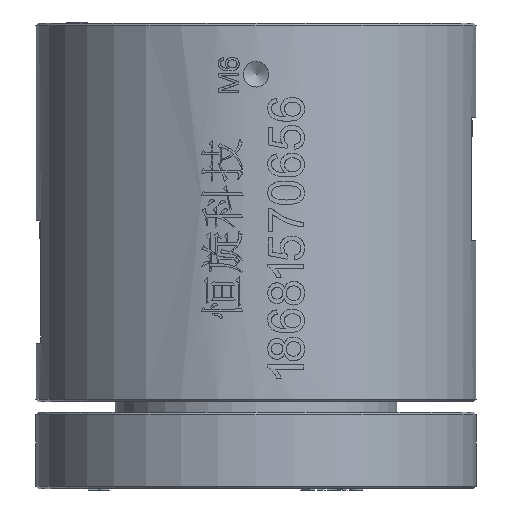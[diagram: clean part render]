
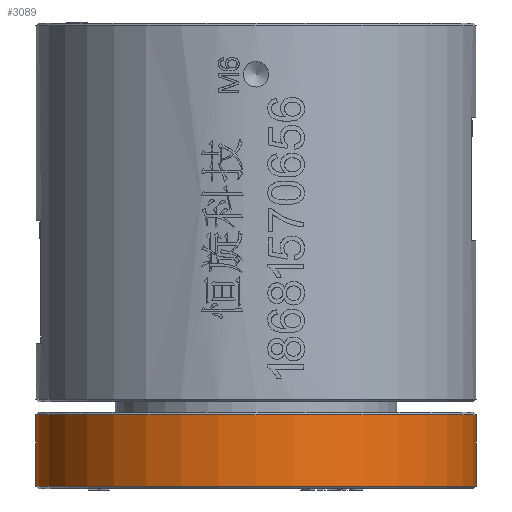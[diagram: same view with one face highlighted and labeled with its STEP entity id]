
A CAD part, left-side view. The second image highlights one B-rep face of the part: STEP entity #3089.
In plain terms, the highlighted cylindrical face has radius 43 mm (diameter 86 mm), a full revolution.
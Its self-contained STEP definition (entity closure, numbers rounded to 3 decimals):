
#2094=CYLINDRICAL_SURFACE('',#22946,43.);
#3089=ADVANCED_FACE('',(#4051,#4052),#2094,.T.);
#3849=CIRCLE('',#22944,43.);
#3850=CIRCLE('',#22945,43.);
#4051=FACE_BOUND('',#5203,.T.);
#4052=FACE_BOUND('',#5204,.T.);
#5203=EDGE_LOOP('',(#14242));
#5204=EDGE_LOOP('',(#14243));
#14242=ORIENTED_EDGE('',*,*,#20331,.T.);
#14243=ORIENTED_EDGE('',*,*,#20332,.T.);
#17252=VERTEX_POINT('',#44757);
#17253=VERTEX_POINT('',#44759);
#20331=EDGE_CURVE('',#17252,#17252,#3849,.T.);
#20332=EDGE_CURVE('',#17253,#17253,#3850,.T.);
#22944=AXIS2_PLACEMENT_3D('',#44756,#25197,#25198);
#22945=AXIS2_PLACEMENT_3D('',#44758,#25199,#25200);
#22946=AXIS2_PLACEMENT_3D('',#44760,#25201,#25202);
#25197=DIRECTION('',(0.,0.,-1.));
#25198=DIRECTION('',(1.,0.,0.));
#25199=DIRECTION('',(0.,0.,1.));
#25200=DIRECTION('',(-1.,0.,0.));
#25201=DIRECTION('',(0.,0.,1.));
#25202=DIRECTION('',(1.,0.,0.));
#44756=CARTESIAN_POINT('',(0.,0.,14.5));
#44757=CARTESIAN_POINT('',(43.,0.,14.5));
#44758=CARTESIAN_POINT('',(0.,0.,0.5));
#44759=CARTESIAN_POINT('',(-43.,0.,0.5));
#44760=CARTESIAN_POINT('',(0.,0.,0.));
